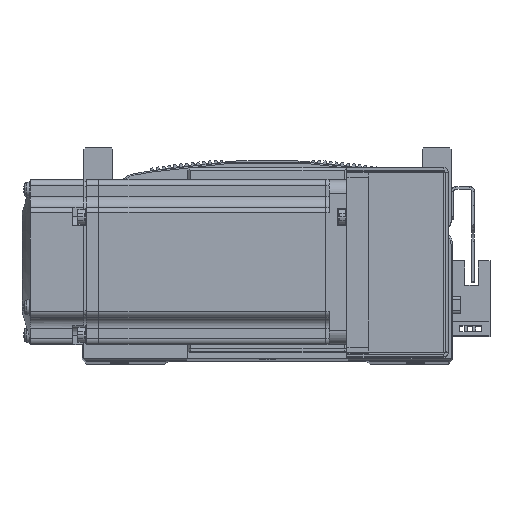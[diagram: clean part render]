
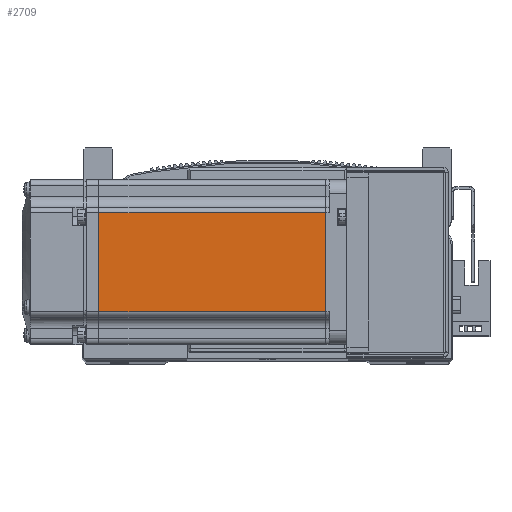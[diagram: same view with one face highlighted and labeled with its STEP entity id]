
A CAD part, top view. The second image highlights one B-rep face of the part: STEP entity #2709.
In plain terms, the highlighted planar face has unit normal (0, 0, 1) as drawn and (0, -1, 0) by its records, which use the part's own axes.
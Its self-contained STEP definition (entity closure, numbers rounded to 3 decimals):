
#2709 = ADVANCED_FACE ( 'NONE', ( #19186 ), #71875, .T. ) ;
#6164 = VECTOR ( 'NONE', #7640, 1000. ) ;
#6165 = VECTOR ( 'NONE', #7678, 1000. ) ;
#6190 = LINE ( 'NONE', #7618, #6164 ) ;
#6192 = LINE ( 'NONE', #7658, #6165 ) ;
#6210 = LINE ( 'NONE', #7701, #6211 ) ;
#6211 = VECTOR ( 'NONE', #7718, 1000. ) ;
#6225 = VECTOR ( 'NONE', #7693, 1000. ) ;
#6230 = LINE ( 'NONE', #7690, #6225 ) ;
#7618 = CARTESIAN_POINT ( 'NONE',  ( -6.5, -30., 18. ) ) ;
#7640 = DIRECTION ( 'NONE',  ( -1., 0., 0. ) ) ;
#7658 = CARTESIAN_POINT ( 'NONE',  ( -7.75, -30., 0. ) ) ;
#7678 = DIRECTION ( 'NONE',  ( 0., 0., -1. ) ) ;
#7690 = CARTESIAN_POINT ( 'NONE',  ( -90.45, -30., 0. ) ) ;
#7693 = DIRECTION ( 'NONE',  ( 0., 0., -1. ) ) ;
#7701 = CARTESIAN_POINT ( 'NONE',  ( -6.5, -30., -18. ) ) ;
#7718 = DIRECTION ( 'NONE',  ( -1., 0., 0. ) ) ;
#14608 = AXIS2_PLACEMENT_3D ( 'NONE', #71857, #71849, #71858 ) ;
#17347 = CARTESIAN_POINT ( 'NONE',  ( -7.75, -30., 18. ) ) ;
#17377 = CARTESIAN_POINT ( 'NONE',  ( -90.45, -30., 18. ) ) ;
#17436 = CARTESIAN_POINT ( 'NONE',  ( -7.75, -30., -18. ) ) ;
#17448 = CARTESIAN_POINT ( 'NONE',  ( -90.45, -30., -18. ) ) ;
#19186 = FACE_OUTER_BOUND ( 'NONE', #71295, .T. ) ;
#35730 = VERTEX_POINT ( 'NONE', #17347 ) ;
#35770 = VERTEX_POINT ( 'NONE', #17377 ) ;
#35854 = VERTEX_POINT ( 'NONE', #17436 ) ;
#35930 = VERTEX_POINT ( 'NONE', #17448 ) ;
#62536 = ORIENTED_EDGE ( 'NONE', *, *, #66667, .F. ) ;
#62547 = ORIENTED_EDGE ( 'NONE', *, *, #66718, .F. ) ;
#62591 = ORIENTED_EDGE ( 'NONE', *, *, #66732, .T. ) ;
#62618 = ORIENTED_EDGE ( 'NONE', *, *, #66647, .T. ) ;
#66647 = EDGE_CURVE ( 'NONE', #35730, #35770, #6190, .T. ) ;
#66667 = EDGE_CURVE ( 'NONE', #35730, #35854, #6192, .T. ) ;
#66718 = EDGE_CURVE ( 'NONE', #35854, #35930, #6210, .T. ) ;
#66732 = EDGE_CURVE ( 'NONE', #35770, #35930, #6230, .T. ) ;
#71295 = EDGE_LOOP ( 'NONE', ( #62536, #62618, #62591, #62547 ) ) ;
#71849 = DIRECTION ( 'NONE',  ( 0., -1., 0. ) ) ;
#71857 = CARTESIAN_POINT ( 'NONE',  ( -6.5, -30., -25. ) ) ;
#71858 = DIRECTION ( 'NONE',  ( 0., 0., -1. ) ) ;
#71875 = PLANE ( 'NONE',  #14608 ) ;
